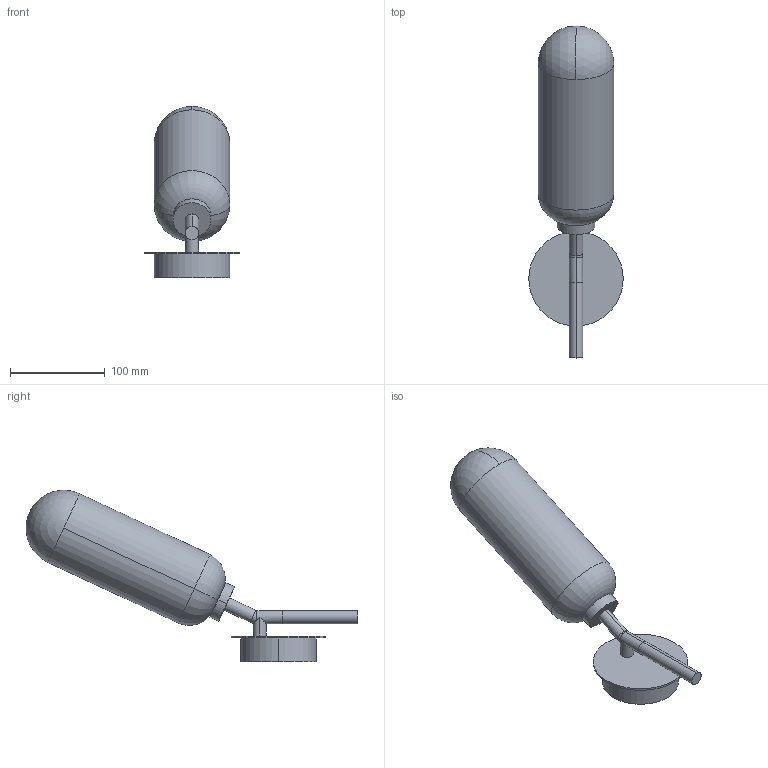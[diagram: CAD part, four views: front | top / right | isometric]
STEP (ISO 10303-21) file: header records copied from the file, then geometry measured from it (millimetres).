
FILE_DESCRIPTION (( 'STEP AP214' ), '1' );
FILE_NAME ('LARI_A1334.STEP', '2024-09-18T08:51:57', ( '' ), ( '' ), 'SwSTEP 2.0', 'SolidWorks 2018', '' );
FILE_SCHEMA (( 'AUTOMOTIVE_DESIGN' ));
Length unit declared in the file: millimetre
Products named in the file (1): LARI_A1334
Bounding box: 100 x 351.05 x 181.13 mm (x, y, z)
Volume: 529036.9 mm3; surface area: 181685.2 mm2
Topology: 7 solids, 8 shells, 117 faces, 289 edges, 186 vertices
Faces by surface type: cylinder 80, plane 20, bspline 7, torus 6, sphere 4
Entity records: 8661 total; most frequent: CARTESIAN_POINT 4893, ORIENTED_EDGE 570, DIRECTION 437, EDGE_CURVE 285, VERTEX_POINT 186, AXIS2_PLACEMENT_3D 176, UNCERTAINTY_MEASURE_WITH_UNIT 126, SURFACE_SIDE_STYLE 125
